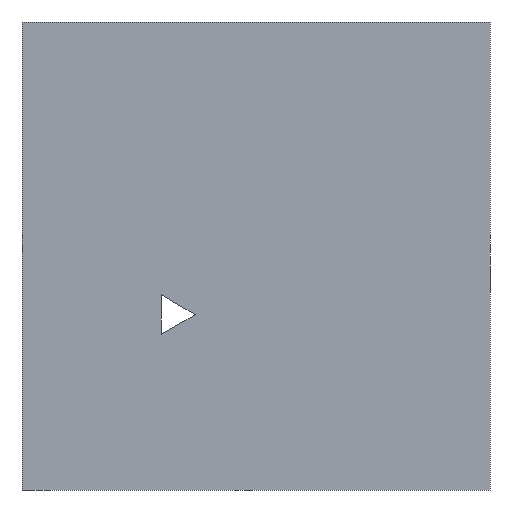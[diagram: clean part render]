
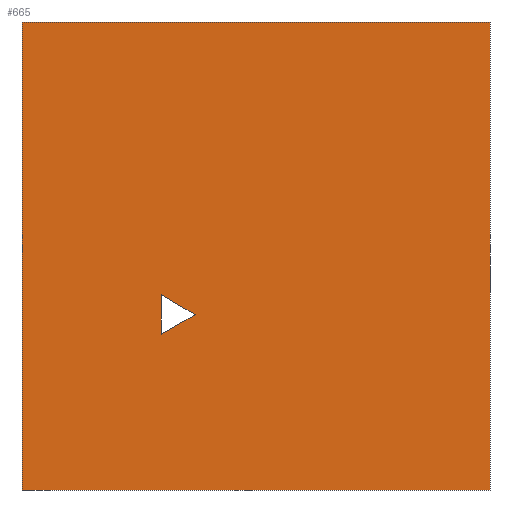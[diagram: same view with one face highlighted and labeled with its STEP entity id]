
A CAD part, front view. The second image highlights one B-rep face of the part: STEP entity #665.
In plain terms, the highlighted planar face has unit normal (0, -1, 0).
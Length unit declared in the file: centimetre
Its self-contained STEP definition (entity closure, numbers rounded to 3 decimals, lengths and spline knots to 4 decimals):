
#31 = VERTEX_POINT ( 'NONE', #873 ) ;
#40 = CARTESIAN_POINT ( 'NONE',  ( 0., 0., 0. ) ) ;
#82 = VECTOR ( 'NONE', #776, 100. ) ;
#83 = LINE ( 'NONE', #722, #864 ) ;
#92 = VECTOR ( 'NONE', #874, 100. ) ;
#100 = CARTESIAN_POINT ( 'NONE',  ( 0., 0., 1000. ) ) ;
#106 = VECTOR ( 'NONE', #810, 100. ) ;
#116 = DIRECTION ( 'NONE',  ( 1., 0., 0. ) ) ;
#127 = CARTESIAN_POINT ( 'NONE',  ( 297.5249, 0., 417.2529 ) ) ;
#135 = EDGE_CURVE ( 'NONE', #423, #31, #83, .T. ) ;
#151 = CARTESIAN_POINT ( 'NONE',  ( 370.1236, 0., 374.4925 ) ) ;
#153 = CARTESIAN_POINT ( 'NONE',  ( 297.5249, 0., 417.2529 ) ) ;
#178 = FACE_OUTER_BOUND ( 'NONE', #907, .T. ) ;
#181 = LINE ( 'NONE', #100, #791 ) ;
#183 = FACE_BOUND ( 'NONE', #435, .T. ) ;
#194 = PLANE ( 'NONE',  #663 ) ;
#226 = VECTOR ( 'NONE', #779, 100. ) ;
#231 = ORIENTED_EDGE ( 'NONE', *, *, #877, .F. ) ;
#258 = CARTESIAN_POINT ( 'NONE',  ( 1000., 0., 1000. ) ) ;
#265 = EDGE_CURVE ( 'NONE', #347, #602, #181, .T. ) ;
#289 = ORIENTED_EDGE ( 'NONE', *, *, #425, .F. ) ;
#317 = LINE ( 'NONE', #151, #92 ) ;
#347 = VERTEX_POINT ( 'NONE', #610 ) ;
#423 = VERTEX_POINT ( 'NONE', #461 ) ;
#425 = EDGE_CURVE ( 'NONE', #916, #423, #849, .T. ) ;
#435 = EDGE_LOOP ( 'NONE', ( #289, #231, #915 ) ) ;
#458 = CARTESIAN_POINT ( 'NONE',  ( 0., 0., 0. ) ) ;
#461 = CARTESIAN_POINT ( 'NONE',  ( 297.5249, 0., 333.0004 ) ) ;
#504 = VECTOR ( 'NONE', #658, 100. ) ;
#517 = CARTESIAN_POINT ( 'NONE',  ( 0., 0., 1000. ) ) ;
#582 = EDGE_CURVE ( 'NONE', #347, #762, #919, .T. ) ;
#598 = VERTEX_POINT ( 'NONE', #667 ) ;
#602 = VERTEX_POINT ( 'NONE', #258 ) ;
#610 = CARTESIAN_POINT ( 'NONE',  ( 0., 0., 1000. ) ) ;
#611 = LINE ( 'NONE', #458, #226 ) ;
#658 = DIRECTION ( 'NONE',  ( 0., 0., -1. ) ) ;
#663 = AXIS2_PLACEMENT_3D ( 'NONE', #978, #738, #830 ) ;
#665 = ADVANCED_FACE ( 'NONE', ( #183, #178 ), #194, .F. ) ;
#667 = CARTESIAN_POINT ( 'NONE',  ( 1000., 0., 0. ) ) ;
#717 = LINE ( 'NONE', #730, #106 ) ;
#722 = CARTESIAN_POINT ( 'NONE',  ( 297.5249, 0., 333.0004 ) ) ;
#730 = CARTESIAN_POINT ( 'NONE',  ( 1000., 0., 1000. ) ) ;
#738 = DIRECTION ( 'NONE',  ( 0., 1., 0. ) ) ;
#740 = EDGE_CURVE ( 'NONE', #762, #598, #611, .T. ) ;
#745 = ORIENTED_EDGE ( 'NONE', *, *, #265, .F. ) ;
#757 = ORIENTED_EDGE ( 'NONE', *, *, #951, .F. ) ;
#762 = VERTEX_POINT ( 'NONE', #40 ) ;
#776 = DIRECTION ( 'NONE',  ( 0., 0., -1. ) ) ;
#779 = DIRECTION ( 'NONE',  ( 1., 0., 0. ) ) ;
#791 = VECTOR ( 'NONE', #116, 100. ) ;
#810 = DIRECTION ( 'NONE',  ( 0., 0., -1. ) ) ;
#830 = DIRECTION ( 'NONE',  ( 0., 0., 1. ) ) ;
#849 = LINE ( 'NONE', #127, #82 ) ;
#864 = VECTOR ( 'NONE', #894, 100. ) ;
#873 = CARTESIAN_POINT ( 'NONE',  ( 370.1236, 0., 374.4925 ) ) ;
#874 = DIRECTION ( 'NONE',  ( -0.862, 0., 0.508 ) ) ;
#877 = EDGE_CURVE ( 'NONE', #31, #916, #317, .T. ) ;
#894 = DIRECTION ( 'NONE',  ( 0.868, 0., 0.496 ) ) ;
#907 = EDGE_LOOP ( 'NONE', ( #931, #757, #745, #911 ) ) ;
#911 = ORIENTED_EDGE ( 'NONE', *, *, #582, .T. ) ;
#915 = ORIENTED_EDGE ( 'NONE', *, *, #135, .F. ) ;
#916 = VERTEX_POINT ( 'NONE', #153 ) ;
#919 = LINE ( 'NONE', #517, #504 ) ;
#931 = ORIENTED_EDGE ( 'NONE', *, *, #740, .T. ) ;
#951 = EDGE_CURVE ( 'NONE', #602, #598, #717, .T. ) ;
#978 = CARTESIAN_POINT ( 'NONE',  ( 0., 0., 1000. ) ) ;
